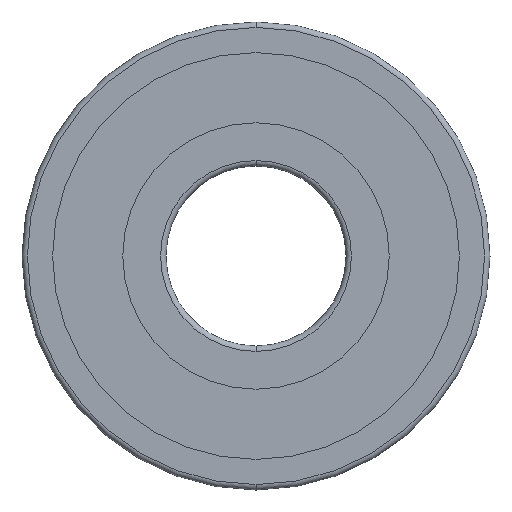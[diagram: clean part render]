
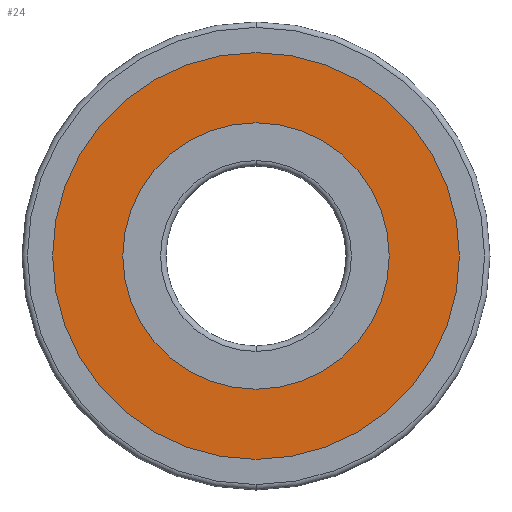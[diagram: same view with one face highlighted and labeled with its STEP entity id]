
A CAD part, left-side view. The second image highlights one B-rep face of the part: STEP entity #24.
In plain terms, the highlighted planar face has unit normal (-1, 0, 0).
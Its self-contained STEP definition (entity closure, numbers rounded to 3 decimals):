
#3 = EDGE_CURVE ( 'NONE', #342, #305, #571, .T. ) ;
#13 = FACE_OUTER_BOUND ( 'NONE', #470, .T. ) ;
#15 = CIRCLE ( 'NONE', #431, 11.3 ) ;
#23 = CARTESIAN_POINT ( 'NONE',  ( -3.85, 0., 0. ) ) ;
#24 = ADVANCED_FACE ( 'NONE', ( #75, #13 ), #690, .F. ) ;
#25 = CARTESIAN_POINT ( 'NONE',  ( -3.85, 0., 11.3 ) ) ;
#31 = CARTESIAN_POINT ( 'NONE',  ( -3.85, 0., -7.4 ) ) ;
#49 = DIRECTION ( 'NONE',  ( -1., 0., 0. ) ) ;
#57 = CARTESIAN_POINT ( 'NONE',  ( -3.85, 0., 0. ) ) ;
#75 = FACE_BOUND ( 'NONE', #324, .T. ) ;
#94 = ORIENTED_EDGE ( 'NONE', *, *, #658, .F. ) ;
#114 = DIRECTION ( 'NONE',  ( 0., 0., 1. ) ) ;
#138 = ORIENTED_EDGE ( 'NONE', *, *, #354, .F. ) ;
#160 = CARTESIAN_POINT ( 'NONE',  ( -3.85, 0., 7.4 ) ) ;
#167 = CARTESIAN_POINT ( 'NONE',  ( -3.85, 0., 0. ) ) ;
#190 = CARTESIAN_POINT ( 'NONE',  ( -3.85, 0., 9.35 ) ) ;
#206 = DIRECTION ( 'NONE',  ( -1., 0., 0. ) ) ;
#261 = CARTESIAN_POINT ( 'NONE',  ( -3.85, 0., 0. ) ) ;
#274 = DIRECTION ( 'NONE',  ( -1., 0., 0. ) ) ;
#276 = DIRECTION ( 'NONE',  ( 0., 0., 1. ) ) ;
#288 = AXIS2_PLACEMENT_3D ( 'NONE', #190, #350, #577 ) ;
#305 = VERTEX_POINT ( 'NONE', #25 ) ;
#324 = EDGE_LOOP ( 'NONE', ( #138, #94 ) ) ;
#327 = AXIS2_PLACEMENT_3D ( 'NONE', #167, #274, #114 ) ;
#332 = ORIENTED_EDGE ( 'NONE', *, *, #691, .T. ) ;
#342 = VERTEX_POINT ( 'NONE', #623 ) ;
#350 = DIRECTION ( 'NONE',  ( 1., 0., 0. ) ) ;
#354 = EDGE_CURVE ( 'NONE', #393, #596, #642, .T. ) ;
#393 = VERTEX_POINT ( 'NONE', #160 ) ;
#423 = AXIS2_PLACEMENT_3D ( 'NONE', #57, #49, #505 ) ;
#431 = AXIS2_PLACEMENT_3D ( 'NONE', #23, #698, #276 ) ;
#434 = DIRECTION ( 'NONE',  ( 0., 0., 1. ) ) ;
#452 = CIRCLE ( 'NONE', #580, 7.4 ) ;
#470 = EDGE_LOOP ( 'NONE', ( #332, #522 ) ) ;
#505 = DIRECTION ( 'NONE',  ( 0., 0., 1. ) ) ;
#522 = ORIENTED_EDGE ( 'NONE', *, *, #3, .T. ) ;
#571 = CIRCLE ( 'NONE', #423, 11.3 ) ;
#577 = DIRECTION ( 'NONE',  ( 0., 1., 0. ) ) ;
#580 = AXIS2_PLACEMENT_3D ( 'NONE', #261, #206, #434 ) ;
#596 = VERTEX_POINT ( 'NONE', #31 ) ;
#623 = CARTESIAN_POINT ( 'NONE',  ( -3.85, 0., -11.3 ) ) ;
#642 = CIRCLE ( 'NONE', #327, 7.4 ) ;
#658 = EDGE_CURVE ( 'NONE', #596, #393, #452, .T. ) ;
#690 = PLANE ( 'NONE',  #288 ) ;
#691 = EDGE_CURVE ( 'NONE', #305, #342, #15, .T. ) ;
#698 = DIRECTION ( 'NONE',  ( -1., 0., 0. ) ) ;
